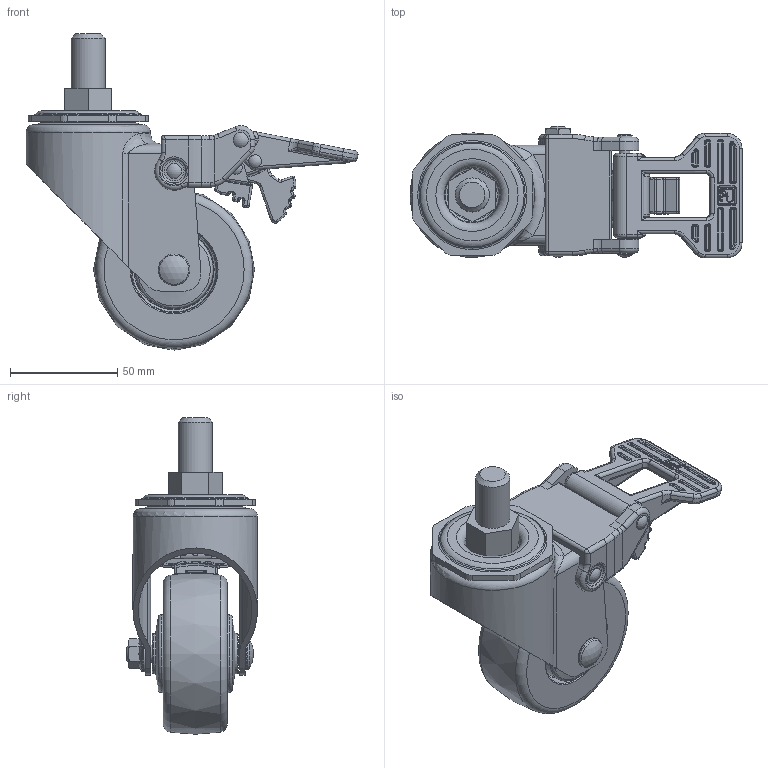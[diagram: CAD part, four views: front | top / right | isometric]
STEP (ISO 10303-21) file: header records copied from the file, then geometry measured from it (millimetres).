
FILE_DESCRIPTION(/* description */ (''),/* implementation_level */ '2;1');
FILE_NAME(/* name */ 'E:\홈페이지용3d\STEP\PL-75-BSS-LUD.stp',/* time_stamp */ '2015-03-19T11:37:13+09:00',/* author */ ('장용하'),/* organization */ (''),/* preprocessor_version */ 'ST-DEVELOPER v15.6',/* originating_system */ 'Autodesk Inventor 2015',/* authorisation */ '');
FILE_SCHEMA (('AUTOMOTIVE_DESIGN { 1 0 10303 214 3 1 1 }'));
Products named in the file (1): PL-75-BSS-LUD
Bounding box: 154.69 x 61.5 x 147.4 mm (x, y, z)
Volume: 248298.6 mm3; surface area: 92924.9 mm2
Topology: 3 solids, 3 shells, 1624 faces, 3955 edges, 2284 vertices
Faces by surface type: cylinder 673, plane 428, torus 233, bspline 127, sphere 117, cone 46
Full cylindrical faces by diameter (mm): 4 x2, 4.2 x8, 5 x2, 5.2 x7, 6 x4, 7 x4, 8 x2, 12.084 x2, 12.5 x1, 14.6 x1, 15.875 x1, 17 x1, 24.667 x2, 32.333 x2, 34 x1, 36 x1, 41 x1, 53 x1, 58 x1
Entity records: 54678 total; most frequent: CARTESIAN_POINT 15894, DIRECTION 8271, ORIENTED_EDGE 7402, EDGE_CURVE 3701, AXIS2_PLACEMENT_3D 3350, VERTEX_POINT 2264, EDGE_LOOP 1853, CIRCLE 1732
